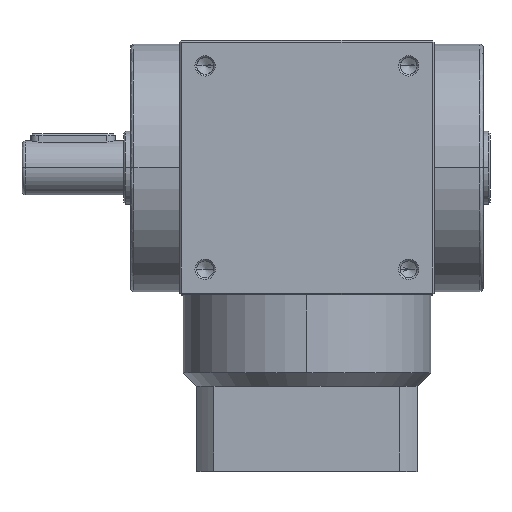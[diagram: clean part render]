
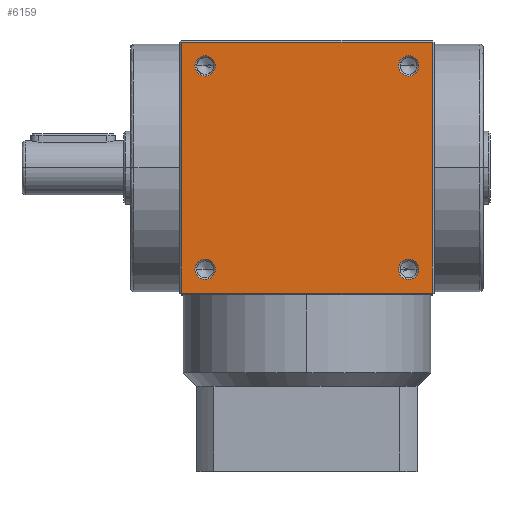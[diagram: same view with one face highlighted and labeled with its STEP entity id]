
A CAD part, top view. The second image highlights one B-rep face of the part: STEP entity #6159.
In plain terms, the highlighted planar face has unit normal (0, 0, 1).
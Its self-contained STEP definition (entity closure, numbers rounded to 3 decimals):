
#31 = CARTESIAN_POINT ( 'NONE',  ( 27., -30., 37.5 ) ) ;
#54 = VERTEX_POINT ( 'NONE', #4129 ) ;
#127 = ORIENTED_EDGE ( 'NONE', *, *, #911, .F. ) ;
#617 = CARTESIAN_POINT ( 'NONE',  ( -30., 30., 37.5 ) ) ;
#715 = EDGE_LOOP ( 'NONE', ( #127, #8816 ) ) ;
#732 = DIRECTION ( 'NONE',  ( 1., 0., 0. ) ) ;
#766 = FACE_BOUND ( 'NONE', #715, .T. ) ;
#820 = AXIS2_PLACEMENT_3D ( 'NONE', #4073, #4103, #3316 ) ;
#907 = CARTESIAN_POINT ( 'NONE',  ( 0., 37., 37.5 ) ) ;
#911 = EDGE_CURVE ( 'NONE', #7211, #9221, #3313, .T. ) ;
#942 = AXIS2_PLACEMENT_3D ( 'NONE', #2714, #4121, #9298 ) ;
#1055 = VERTEX_POINT ( 'NONE', #4097 ) ;
#1586 = CIRCLE ( 'NONE', #2187, 3. ) ;
#1593 = VECTOR ( 'NONE', #4985, 1000. ) ;
#1804 = ORIENTED_EDGE ( 'NONE', *, *, #8256, .F. ) ;
#1999 = DIRECTION ( 'NONE',  ( 1., 0., 0. ) ) ;
#2134 = DIRECTION ( 'NONE',  ( 0., 0., -1. ) ) ;
#2152 = VERTEX_POINT ( 'NONE', #7011 ) ;
#2187 = AXIS2_PLACEMENT_3D ( 'NONE', #617, #6231, #1999 ) ;
#2258 = EDGE_LOOP ( 'NONE', ( #2932, #1804 ) ) ;
#2269 = VERTEX_POINT ( 'NONE', #8870 ) ;
#2278 = DIRECTION ( 'NONE',  ( 0., 0., 1. ) ) ;
#2436 = DIRECTION ( 'NONE',  ( 0., 0., 1. ) ) ;
#2470 = LINE ( 'NONE', #4235, #1593 ) ;
#2714 = CARTESIAN_POINT ( 'NONE',  ( 30., -30., 37.5 ) ) ;
#2841 = DIRECTION ( 'NONE',  ( -1., 0., 0. ) ) ;
#2842 = DIRECTION ( 'NONE',  ( 1., 0., 0. ) ) ;
#2915 = VERTEX_POINT ( 'NONE', #31 ) ;
#2932 = ORIENTED_EDGE ( 'NONE', *, *, #8015, .F. ) ;
#2937 = AXIS2_PLACEMENT_3D ( 'NONE', #4370, #5850, #4305 ) ;
#2972 = LINE ( 'NONE', #5353, #5552 ) ;
#2974 = FACE_OUTER_BOUND ( 'NONE', #4531, .T. ) ;
#3040 = DIRECTION ( 'NONE',  ( 1., 0., 0. ) ) ;
#3203 = CARTESIAN_POINT ( 'NONE',  ( -37., 0., 37.5 ) ) ;
#3311 = CARTESIAN_POINT ( 'NONE',  ( -33., -30., 37.5 ) ) ;
#3313 = CIRCLE ( 'NONE', #2937, 3. ) ;
#3316 = DIRECTION ( 'NONE',  ( 1., 0., 0. ) ) ;
#3526 = VECTOR ( 'NONE', #4760, 1000. ) ;
#3535 = LINE ( 'NONE', #907, #4312 ) ;
#3584 = EDGE_LOOP ( 'NONE', ( #7068, #7362 ) ) ;
#3882 = EDGE_CURVE ( 'NONE', #9221, #7211, #4454, .T. ) ;
#3897 = VERTEX_POINT ( 'NONE', #8828 ) ;
#3972 = FACE_BOUND ( 'NONE', #2258, .T. ) ;
#4073 = CARTESIAN_POINT ( 'NONE',  ( -30., -30., 37.5 ) ) ;
#4091 = EDGE_CURVE ( 'NONE', #8355, #5344, #5239, .T. ) ;
#4097 = CARTESIAN_POINT ( 'NONE',  ( -37., -37., 37.5 ) ) ;
#4103 = DIRECTION ( 'NONE',  ( 0., 0., 1. ) ) ;
#4121 = DIRECTION ( 'NONE',  ( 0., 0., 1. ) ) ;
#4129 = CARTESIAN_POINT ( 'NONE',  ( 37., -37., 37.5 ) ) ;
#4235 = CARTESIAN_POINT ( 'NONE',  ( 0., -37., 37.5 ) ) ;
#4296 = EDGE_CURVE ( 'NONE', #5344, #8355, #6165, .T. ) ;
#4305 = DIRECTION ( 'NONE',  ( 1., 0., 0. ) ) ;
#4312 = VECTOR ( 'NONE', #5861, 1000. ) ;
#4370 = CARTESIAN_POINT ( 'NONE',  ( 30., 30., 37.5 ) ) ;
#4402 = EDGE_CURVE ( 'NONE', #2269, #8581, #1586, .T. ) ;
#4454 = CIRCLE ( 'NONE', #6871, 3. ) ;
#4525 = CIRCLE ( 'NONE', #6973, 3. ) ;
#4530 = AXIS2_PLACEMENT_3D ( 'NONE', #7126, #7154, #2842 ) ;
#4531 = EDGE_LOOP ( 'NONE', ( #4857, #9043, #8038, #6962 ) ) ;
#4674 = DIRECTION ( 'NONE',  ( 1., 0., 0. ) ) ;
#4760 = DIRECTION ( 'NONE',  ( 0., 1., 0. ) ) ;
#4857 = ORIENTED_EDGE ( 'NONE', *, *, #8842, .F. ) ;
#4890 = FACE_BOUND ( 'NONE', #3584, .T. ) ;
#4985 = DIRECTION ( 'NONE',  ( -1., 0., 0. ) ) ;
#5239 = CIRCLE ( 'NONE', #820, 3. ) ;
#5344 = VERTEX_POINT ( 'NONE', #3311 ) ;
#5353 = CARTESIAN_POINT ( 'NONE',  ( 37., 0., 37.5 ) ) ;
#5532 = CARTESIAN_POINT ( 'NONE',  ( 33., 30., 37.5 ) ) ;
#5552 = VECTOR ( 'NONE', #6118, 1000. ) ;
#5708 = CIRCLE ( 'NONE', #4530, 3. ) ;
#5732 = CARTESIAN_POINT ( 'NONE',  ( -27., -30., 37.5 ) ) ;
#5845 = EDGE_CURVE ( 'NONE', #3897, #54, #2972, .T. ) ;
#5850 = DIRECTION ( 'NONE',  ( 0., 0., 1. ) ) ;
#5861 = DIRECTION ( 'NONE',  ( -1., 0., 0. ) ) ;
#5874 = ORIENTED_EDGE ( 'NONE', *, *, #4296, .F. ) ;
#6118 = DIRECTION ( 'NONE',  ( 0., -1., 0. ) ) ;
#6159 = ADVANCED_FACE ( 'NONE', ( #2974, #4890, #766, #7368, #3972 ), #7936, .F. ) ;
#6165 = CIRCLE ( 'NONE', #9066, 3. ) ;
#6231 = DIRECTION ( 'NONE',  ( 0., 0., 1. ) ) ;
#6292 = CIRCLE ( 'NONE', #942, 3. ) ;
#6479 = DIRECTION ( 'NONE',  ( 0., 0., 1. ) ) ;
#6537 = ORIENTED_EDGE ( 'NONE', *, *, #4091, .F. ) ;
#6654 = CARTESIAN_POINT ( 'NONE',  ( 30., 30., 37.5 ) ) ;
#6765 = CARTESIAN_POINT ( 'NONE',  ( -37., 37., 37.5 ) ) ;
#6798 = EDGE_CURVE ( 'NONE', #3897, #9076, #3535, .T. ) ;
#6871 = AXIS2_PLACEMENT_3D ( 'NONE', #6654, #2278, #3040 ) ;
#6905 = LINE ( 'NONE', #3203, #3526 ) ;
#6962 = ORIENTED_EDGE ( 'NONE', *, *, #7079, .F. ) ;
#6973 = AXIS2_PLACEMENT_3D ( 'NONE', #7508, #2436, #4674 ) ;
#7011 = CARTESIAN_POINT ( 'NONE',  ( 33., -30., 37.5 ) ) ;
#7053 = EDGE_LOOP ( 'NONE', ( #6537, #5874 ) ) ;
#7068 = ORIENTED_EDGE ( 'NONE', *, *, #9290, .F. ) ;
#7079 = EDGE_CURVE ( 'NONE', #1055, #9076, #6905, .T. ) ;
#7126 = CARTESIAN_POINT ( 'NONE',  ( -30., 30., 37.5 ) ) ;
#7154 = DIRECTION ( 'NONE',  ( 0., 0., 1. ) ) ;
#7177 = CARTESIAN_POINT ( 'NONE',  ( 0., 0., 37.5 ) ) ;
#7211 = VERTEX_POINT ( 'NONE', #5532 ) ;
#7230 = CARTESIAN_POINT ( 'NONE',  ( -30., -30., 37.5 ) ) ;
#7362 = ORIENTED_EDGE ( 'NONE', *, *, #4402, .F. ) ;
#7368 = FACE_BOUND ( 'NONE', #7053, .T. ) ;
#7508 = CARTESIAN_POINT ( 'NONE',  ( 30., -30., 37.5 ) ) ;
#7936 = PLANE ( 'NONE',  #8240 ) ;
#8015 = EDGE_CURVE ( 'NONE', #2152, #2915, #4525, .T. ) ;
#8038 = ORIENTED_EDGE ( 'NONE', *, *, #6798, .T. ) ;
#8240 = AXIS2_PLACEMENT_3D ( 'NONE', #7177, #2134, #2841 ) ;
#8256 = EDGE_CURVE ( 'NONE', #2915, #2152, #6292, .T. ) ;
#8355 = VERTEX_POINT ( 'NONE', #5732 ) ;
#8581 = VERTEX_POINT ( 'NONE', #9136 ) ;
#8582 = CARTESIAN_POINT ( 'NONE',  ( 27., 30., 37.5 ) ) ;
#8816 = ORIENTED_EDGE ( 'NONE', *, *, #3882, .F. ) ;
#8828 = CARTESIAN_POINT ( 'NONE',  ( 37., 37., 37.5 ) ) ;
#8842 = EDGE_CURVE ( 'NONE', #54, #1055, #2470, .T. ) ;
#8870 = CARTESIAN_POINT ( 'NONE',  ( -33., 30., 37.5 ) ) ;
#9043 = ORIENTED_EDGE ( 'NONE', *, *, #5845, .F. ) ;
#9066 = AXIS2_PLACEMENT_3D ( 'NONE', #7230, #6479, #732 ) ;
#9076 = VERTEX_POINT ( 'NONE', #6765 ) ;
#9136 = CARTESIAN_POINT ( 'NONE',  ( -27., 30., 37.5 ) ) ;
#9221 = VERTEX_POINT ( 'NONE', #8582 ) ;
#9290 = EDGE_CURVE ( 'NONE', #8581, #2269, #5708, .T. ) ;
#9298 = DIRECTION ( 'NONE',  ( 1., 0., 0. ) ) ;
